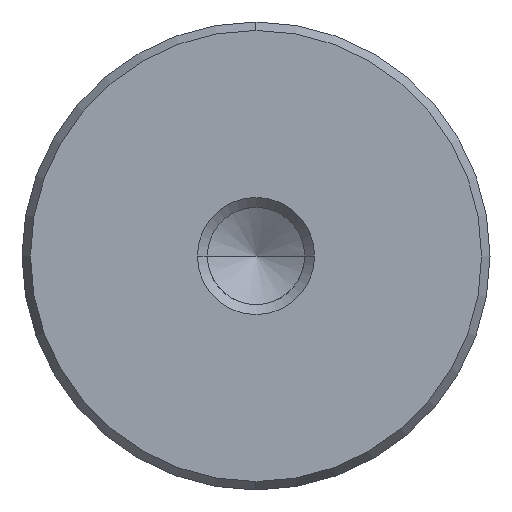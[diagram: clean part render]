
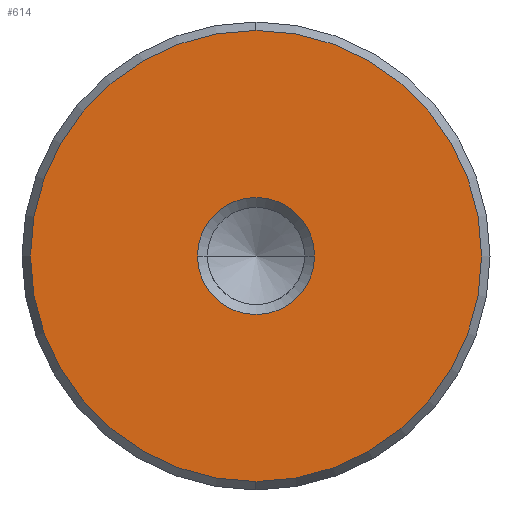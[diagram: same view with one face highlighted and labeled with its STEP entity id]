
A CAD part, left-side view. The second image highlights one B-rep face of the part: STEP entity #614.
In plain terms, the highlighted planar face has unit normal (-1, 0, 0).
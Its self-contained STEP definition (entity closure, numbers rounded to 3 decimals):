
#528=CARTESIAN_POINT('Vertex',(0.,0.,-15.423)) ;
#531=CARTESIAN_POINT('Axis2P3D Location',(0.,0.,0.)) ;
#535=CARTESIAN_POINT('Vertex',(0.,15.423,0.)) ;
#538=CARTESIAN_POINT('Axis2P3D Location',(0.,0.,0.)) ;
#542=CARTESIAN_POINT('Vertex',(0.,0.,15.423)) ;
#564=CARTESIAN_POINT('Axis2P3D Location',(0.,0.,0.)) ;
#568=CARTESIAN_POINT('Vertex',(0.,-15.423,0.)) ;
#571=CARTESIAN_POINT('Axis2P3D Location',(0.,0.,0.)) ;
#585=CARTESIAN_POINT('Axis2P3D Location',(0.,0.,0.)) ;
#596=CARTESIAN_POINT('Axis2P3D Location',(0.,0.,0.)) ;
#600=CARTESIAN_POINT('Vertex',(0.,4.,0.)) ;
#602=CARTESIAN_POINT('Vertex',(0.,-4.,0.)) ;
#605=CARTESIAN_POINT('Axis2P3D Location',(0.,0.,0.)) ;
#532=DIRECTION('Axis2P3D Direction',(1.,0.,-0.)) ;
#539=DIRECTION('Axis2P3D Direction',(1.,0.,-0.)) ;
#565=DIRECTION('Axis2P3D Direction',(1.,0.,-0.)) ;
#572=DIRECTION('Axis2P3D Direction',(1.,0.,-0.)) ;
#586=DIRECTION('Axis2P3D Direction',(1.,0.,-0.)) ;
#587=DIRECTION('Axis2P3D XDirection',(-0.,0.,-1.)) ;
#597=DIRECTION('Axis2P3D Direction',(1.,0.,-0.)) ;
#606=DIRECTION('Axis2P3D Direction',(1.,0.,-0.)) ;
#533=AXIS2_PLACEMENT_3D('Circle Axis2P3D',#531,#532,$) ;
#540=AXIS2_PLACEMENT_3D('Circle Axis2P3D',#538,#539,$) ;
#566=AXIS2_PLACEMENT_3D('Circle Axis2P3D',#564,#565,$) ;
#573=AXIS2_PLACEMENT_3D('Circle Axis2P3D',#571,#572,$) ;
#588=AXIS2_PLACEMENT_3D('Plane Axis2P3D',#585,#586,#587) ;
#598=AXIS2_PLACEMENT_3D('Circle Axis2P3D',#596,#597,$) ;
#607=AXIS2_PLACEMENT_3D('Circle Axis2P3D',#605,#606,$) ;
#591=ORIENTED_EDGE('',*,*,#537,.F.) ;
#592=ORIENTED_EDGE('',*,*,#575,.F.) ;
#593=ORIENTED_EDGE('',*,*,#570,.F.) ;
#594=ORIENTED_EDGE('',*,*,#544,.F.) ;
#611=ORIENTED_EDGE('',*,*,#604,.T.) ;
#612=ORIENTED_EDGE('',*,*,#609,.T.) ;
#613=FACE_BOUND('',#610,.T.) ;
#614=ADVANCED_FACE('720-32x280',(#595,#613),#589,.F.) ;
#534=CIRCLE('generated circle',#533,15.423) ;
#541=CIRCLE('generated circle',#540,15.423) ;
#567=CIRCLE('generated circle',#566,15.423) ;
#574=CIRCLE('generated circle',#573,15.423) ;
#599=CIRCLE('generated circle',#598,4.) ;
#608=CIRCLE('generated circle',#607,4.) ;
#537=EDGE_CURVE('',#529,#536,#534,.T.) ;
#544=EDGE_CURVE('',#536,#543,#541,.T.) ;
#570=EDGE_CURVE('',#543,#569,#567,.T.) ;
#575=EDGE_CURVE('',#569,#529,#574,.T.) ;
#604=EDGE_CURVE('',#601,#603,#599,.T.) ;
#609=EDGE_CURVE('',#603,#601,#608,.T.) ;
#590=EDGE_LOOP('',(#591,#592,#593,#594)) ;
#610=EDGE_LOOP('',(#611,#612)) ;
#595=FACE_OUTER_BOUND('',#590,.T.) ;
#589=PLANE('Plane',#588) ;
#529=VERTEX_POINT('',#528) ;
#536=VERTEX_POINT('',#535) ;
#543=VERTEX_POINT('',#542) ;
#569=VERTEX_POINT('',#568) ;
#601=VERTEX_POINT('',#600) ;
#603=VERTEX_POINT('',#602) ;
